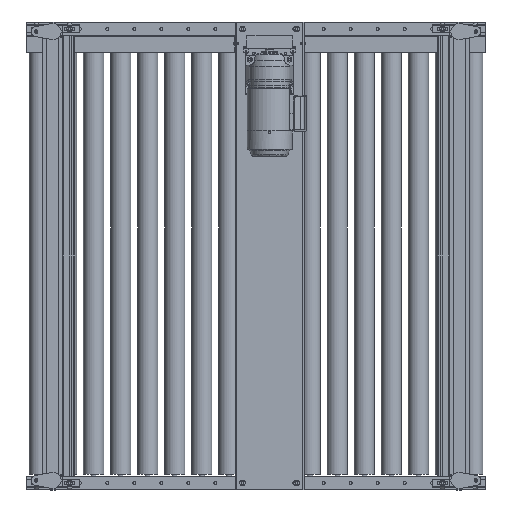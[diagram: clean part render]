
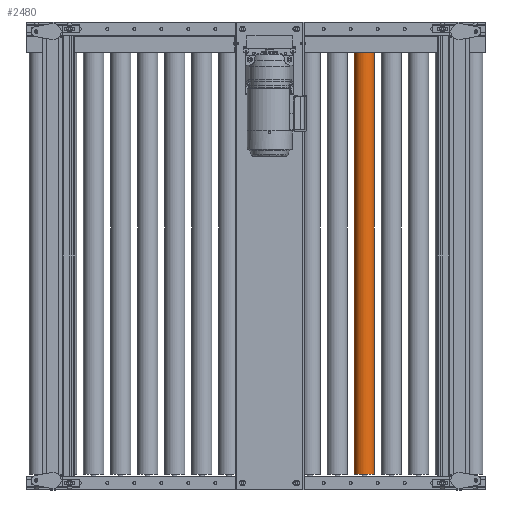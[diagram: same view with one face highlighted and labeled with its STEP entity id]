
A CAD part, front view. The second image highlights one B-rep face of the part: STEP entity #2480.
In plain terms, the highlighted cylindrical face has radius 38.15 mm (diameter 76.3 mm), a full revolution.
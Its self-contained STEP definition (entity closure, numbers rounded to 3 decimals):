
#2480=ADVANCED_FACE('',(#13302),#13301,.T.);
#13301=CYLINDRICAL_SURFACE('',#37433,38.15);
#13302=FACE_OUTER_BOUND('',#37434,.T.);
#37430=CARTESIAN_POINT('',(1273.,-38.15,28.5));
#37431=DIRECTION('',(0.,0.,-1.));
#37432=DIRECTION('',(-1.,0.,0.));
#37433=AXIS2_PLACEMENT_3D('',#37430,#37431,#37432);
#37434=EDGE_LOOP('',(#52256,#52257,#52258,#52259,#52260,#52261));
#52256=ORIENTED_EDGE('',*,*,#64319,.F.);
#52257=ORIENTED_EDGE('',*,*,#64320,.T.);
#52258=ORIENTED_EDGE('',*,*,#64321,.T.);
#52259=ORIENTED_EDGE('',*,*,#64322,.T.);
#52260=ORIENTED_EDGE('',*,*,#64320,.F.);
#52261=ORIENTED_EDGE('',*,*,#64318,.F.);
#64318=EDGE_CURVE('',#83467,#83468,#83469,.T.);
#64319=EDGE_CURVE('',#83468,#83467,#83475,.T.);
#64320=EDGE_CURVE('',#83468,#83481,#83482,.T.);
#64321=EDGE_CURVE('',#83481,#83488,#83489,.T.);
#64322=EDGE_CURVE('',#83488,#83481,#83495,.T.);
#83467=VERTEX_POINT('',#124970);
#83468=VERTEX_POINT('',#124971);
#83469=CIRCLE('',#124975,38.15);
#83475=CIRCLE('',#124979,38.15);
#83481=VERTEX_POINT('',#124980);
#83482=(BOUNDED_CURVE() B_SPLINE_CURVE(1,(#124981,#124982),.UNSPECIFIED.,.F.,.F.) B_SPLINE_CURVE_WITH_KNOTS((2,2),(0.006,0.994),.UNSPECIFIED.) CURVE() GEOMETRIC_REPRESENTATION_ITEM() RATIONAL_B_SPLINE_CURVE((1.,1.)) REPRESENTATION_ITEM('') );
#83488=VERTEX_POINT('',#124983);
#83489=CIRCLE('',#124987,38.15);
#83495=CIRCLE('',#124991,38.15);
#124970=CARTESIAN_POINT('',(1311.15,-38.15,794.5));
#124971=CARTESIAN_POINT('',(1234.85,-38.15,794.5));
#124972=CARTESIAN_POINT('',(1273.,-38.15,794.5));
#124973=DIRECTION('',(0.,0.,1.));
#124974=DIRECTION('',(1.,0.,0.));
#124975=AXIS2_PLACEMENT_3D('',#124972,#124973,#124974);
#124976=CARTESIAN_POINT('',(1273.,-38.15,794.5));
#124977=DIRECTION('',(0.,0.,1.));
#124978=DIRECTION('',(1.,0.,0.));
#124979=AXIS2_PLACEMENT_3D('',#124976,#124977,#124978);
#124980=CARTESIAN_POINT('',(1234.85,-38.15,-794.5));
#124981=CARTESIAN_POINT('',(1234.85,-38.15,794.5));
#124982=CARTESIAN_POINT('',(1234.85,-38.15,-794.5));
#124983=CARTESIAN_POINT('',(1311.15,-38.15,-794.5));
#124984=CARTESIAN_POINT('',(1273.,-38.15,-794.5));
#124985=DIRECTION('',(0.,0.,1.));
#124986=DIRECTION('',(1.,0.,0.));
#124987=AXIS2_PLACEMENT_3D('',#124984,#124985,#124986);
#124988=CARTESIAN_POINT('',(1273.,-38.15,-794.5));
#124989=DIRECTION('',(0.,0.,1.));
#124990=DIRECTION('',(1.,0.,0.));
#124991=AXIS2_PLACEMENT_3D('',#124988,#124989,#124990);
